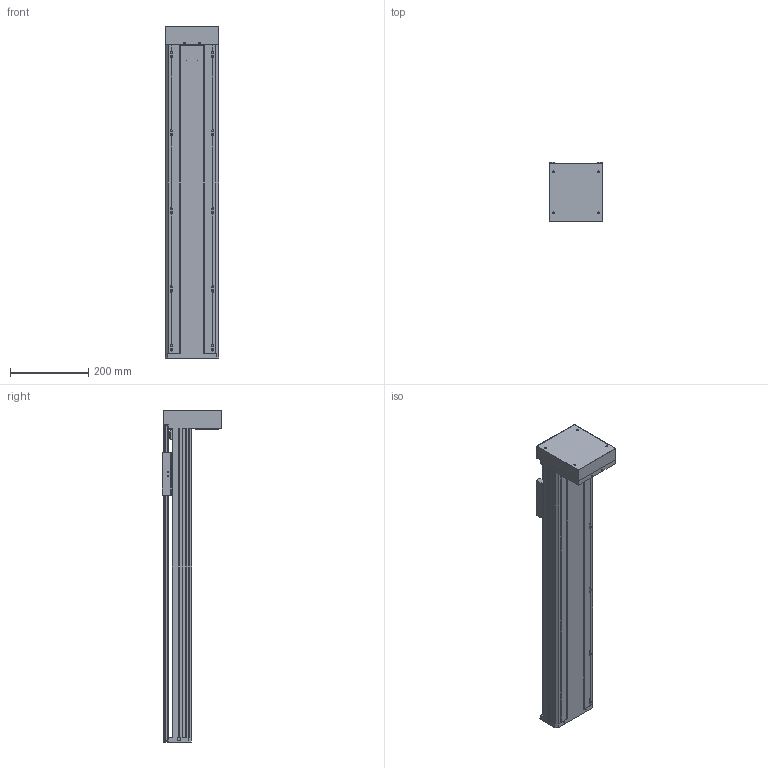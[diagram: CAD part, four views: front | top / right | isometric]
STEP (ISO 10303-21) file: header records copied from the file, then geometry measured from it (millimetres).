
FILE_DESCRIPTION(/* description */ (''),/* implementation_level */ '2;1');
FILE_NAME(/* name */ 'TKA136-FD-600_asm1.stp',/* time_stamp */ '2016-05-07T09:27:41+08:00',/* author */ (''),/* organization */ (''),/* preprocessor_version */ 'ST-DEVELOPER v15',/* originating_system */ 'SIEMENS PLM Software NX 8.5',/* authorisation */ '');
FILE_SCHEMA (('AUTOMOTIVE_DESIGN { 1 0 10303 214 3 1 1 1 }'));
Length unit declared in the file: millimetre
Products named in the file (3): 100-02; 100-01; TKA136-FD-600_asm1
Assembly tree (2 placements, depth 2):
  TKA136-FD-600_asm1
    100-01
    100-02
Bounding box: 136 x 152 x 850 mm (x, y, z)
Volume: 2773976.1 mm3; surface area: 1076308.9 mm2
Topology: 2 solids, 13 shells, 928 faces, 2585 edges, 1665 vertices
Faces by surface type: cylinder 441, plane 422, cone 65
Full cylindrical faces by diameter (mm): 3 x2, 3.3 x13, 4 x4, 4.2 x8, 4.5 x14, 5 x10, 5.5 x26, 6.6 x14, 8 x12, 10 x9, 10.5 x10, 11 x4, 11.6 x1, 12 x9, 15 x3, 16 x5, 17 x1, 24 x5, 26 x1, 28 x1, 46 x1, 50 x2
Entity records: 31098 total; most frequent: CARTESIAN_POINT 8042, DIRECTION 4840, ORIENTED_EDGE 4542, EDGE_CURVE 2271, AXIS2_PLACEMENT_3D 1831, VERTEX_POINT 1576, EDGE_LOOP 1308, LINE 1178
